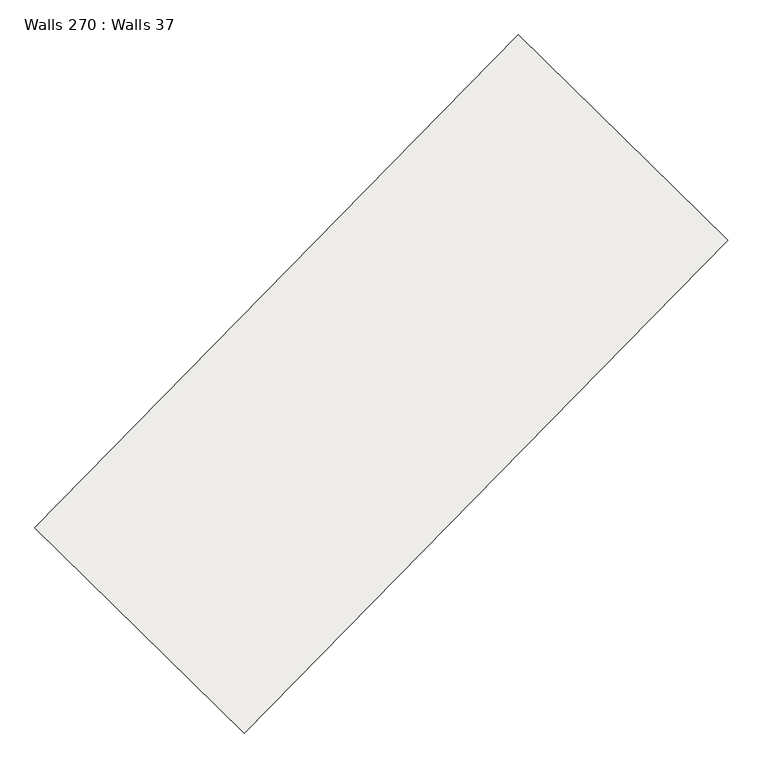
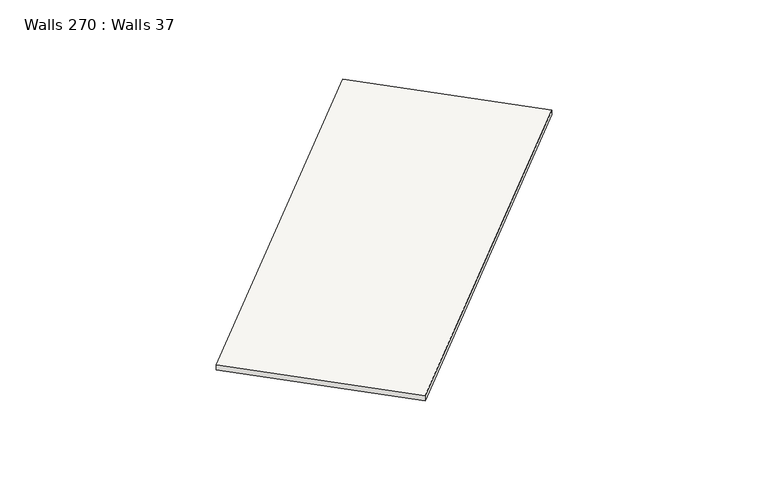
"""IFC4 building model written with IfcOpenShell, lengths in millimetres: slab geometry, Walls 270 : Walls 37."""

from ifc_helpers import new_model, si_unit, frame, origin, place, context, project, spatial, polyline, outline, extrude, source, transform, mapped, element, save


def walls_270_walls_37_cd033509(model_context):
    return source(origin(), model_context, "Body", "SweptSolid", [
        extrude(outline(polyline([(-50.0, 0.0), (50.0, 0.0), (-40.0, -8699.9999995), (-140.0, -8699.9999995), (-50.0, 0.0)])), frame((-158383.921522, -320741.3347023, 635740.0), z_axis=(-0.7137361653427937, 0.700414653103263, 0.0), x_axis=(0.0, 0.0, 1.0)), (0.0, 0.0, 1.0), 3699.999995),
    ])


if __name__ == "__main__":
    model = new_model("IFC4")
    model_context = context("Model", 3, world=origin())
    ifc_project = project(units=[si_unit("LENGTHUNIT", "METRE", prefix="MILLI")], contexts=[model_context])
    site = spatial("IfcSite", under=ifc_project)
    building = spatial("IfcBuilding", under=site)
    placement = place(None, origin())
    walls_270_walls_37_shape = walls_270_walls_37_cd033509(model_context)
    element("IfcSlab", 1, ObjectType="Walls 270 : Walls 37", at=placement, inside=building, context=model_context, shape_type="MappedRepresentation", body=[
        mapped(walls_270_walls_37_shape, transform((0.0, 0.0, 0.0), x_axis=(1.0, 0.0, 0.0), y_axis=(0.0, 1.0, 0.0), z_axis=(0.0, 0.0, 1.0))),
    ])
    save(model, "model.ifc")
